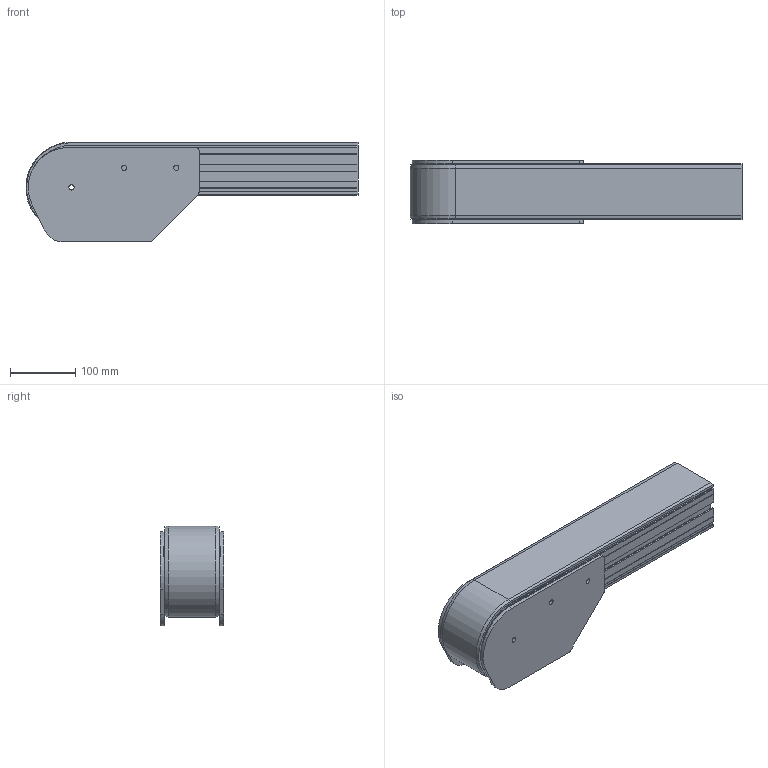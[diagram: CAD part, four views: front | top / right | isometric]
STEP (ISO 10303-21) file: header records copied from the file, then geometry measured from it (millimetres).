
FILE_DESCRIPTION((''),'2;1');
FILE_NAME('C:\Vault Klient\Projekt\Koncept konstruktion\Serie 830 Vändenhet\830-4000.stp','2009-12-01T08:42:52',('Mathias'),(''),'Autodesk Inventor 2010','Autodesk Inventor 2010','');
FILE_SCHEMA(('CONFIG_CONTROL_DESIGN'));
Length unit declared in the file: millimetre
Products named in the file (1): 830-4000
Bounding box: 509.94 x 98 x 153.5 mm (x, y, z)
Volume: 3371279.1 mm3; surface area: 360450.6 mm2
Topology: 1 solids, 1 shells, 113 faces, 353 edges, 228 vertices
Faces by surface type: plane 84, cylinder 19, bspline 6, cone 4
Entity records: 4092 total; most frequent: CARTESIAN_POINT 783, ORIENTED_EDGE 686, DIRECTION 619, EDGE_CURVE 343, VECTOR 283, LINE 283, VERTEX_POINT 224, AXIS2_PLACEMENT_3D 168
